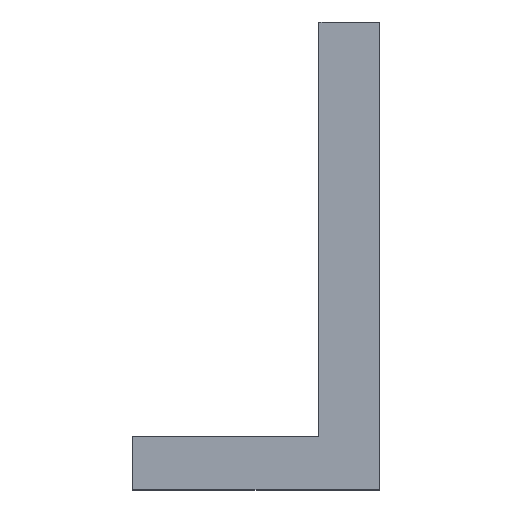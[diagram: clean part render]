
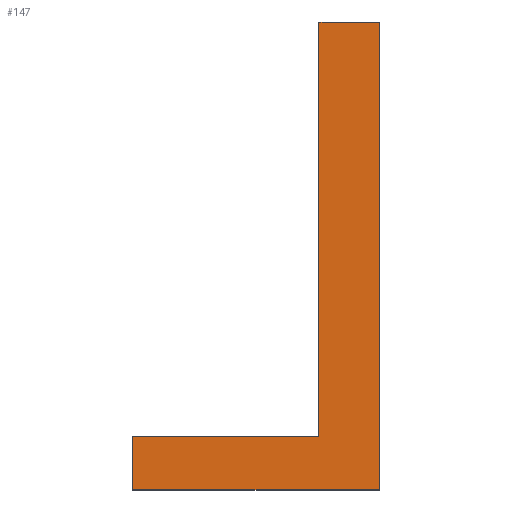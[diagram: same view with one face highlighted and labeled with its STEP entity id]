
A CAD part, top view. The second image highlights one B-rep face of the part: STEP entity #147.
In plain terms, the highlighted planar face has unit normal (0, 0, 1).
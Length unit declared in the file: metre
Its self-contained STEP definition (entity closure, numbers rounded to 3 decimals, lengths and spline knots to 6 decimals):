
#12=ORIENTED_EDGE('',*,*,#48,.F.);
#13=ORIENTED_EDGE('',*,*,#49,.F.);
#14=ORIENTED_EDGE('',*,*,#50,.F.);
#15=ORIENTED_EDGE('',*,*,#51,.F.);
#16=ORIENTED_EDGE('',*,*,#52,.F.);
#17=ORIENTED_EDGE('',*,*,#53,.F.);
#48=EDGE_CURVE('',#66,#67,#78,.T.);
#49=EDGE_CURVE('',#68,#66,#79,.T.);
#50=EDGE_CURVE('',#69,#68,#80,.T.);
#51=EDGE_CURVE('',#70,#69,#81,.T.);
#52=EDGE_CURVE('',#71,#70,#82,.T.);
#53=EDGE_CURVE('',#67,#71,#83,.T.);
#66=VERTEX_POINT('',#263);
#67=VERTEX_POINT('',#264);
#68=VERTEX_POINT('',#266);
#69=VERTEX_POINT('',#268);
#70=VERTEX_POINT('',#270);
#71=VERTEX_POINT('',#272);
#78=LINE('',#262,#96);
#79=LINE('',#265,#97);
#80=LINE('',#267,#98);
#81=LINE('',#269,#99);
#82=LINE('',#271,#100);
#83=LINE('',#273,#101);
#96=VECTOR('',#228,1.);
#97=VECTOR('',#229,1.);
#98=VECTOR('',#230,1.);
#99=VECTOR('',#231,1.);
#100=VECTOR('',#232,1.);
#101=VECTOR('',#233,1.);
#114=EDGE_LOOP('',(#12,#13,#14,#15,#16,#17));
#122=FACE_BOUND('',#114,.T.);
#130=PLANE('',#216);
#147=ADVANCED_FACE('',(#122),#130,.T.);
#216=AXIS2_PLACEMENT_3D('',#261,#226,#227);
#226=DIRECTION('',(0.,0.,1.));
#227=DIRECTION('',(0.,-1.,0.));
#228=DIRECTION('',(0.,1.,0.));
#229=DIRECTION('',(-1.,0.,0.));
#230=DIRECTION('',(0.,-1.,0.));
#231=DIRECTION('',(1.,0.,0.));
#232=DIRECTION('',(0.,1.,0.));
#233=DIRECTION('',(1.,0.,0.));
#261=CARTESIAN_POINT('',(-0.09707,-0.011972,0.006263));
#262=CARTESIAN_POINT('',(-0.097971,-0.011516,0.006263));
#263=CARTESIAN_POINT('',(-0.097971,-0.011523,0.006263));
#264=CARTESIAN_POINT('',(-0.097971,-0.011516,0.006263));
#265=CARTESIAN_POINT('',(-0.097971,-0.011523,0.006263));
#266=CARTESIAN_POINT('',(-0.097939,-0.011523,0.006263));
#267=CARTESIAN_POINT('',(-0.097939,-0.011523,0.006263));
#268=CARTESIAN_POINT('',(-0.097939,-0.011462,0.006263));
#269=CARTESIAN_POINT('',(-0.097939,-0.011462,0.006263));
#270=CARTESIAN_POINT('',(-0.097947,-0.011462,0.006263));
#271=CARTESIAN_POINT('',(-0.097947,-0.011462,0.006263));
#272=CARTESIAN_POINT('',(-0.097947,-0.011516,0.006263));
#273=CARTESIAN_POINT('',(-0.097947,-0.011516,0.006263));
